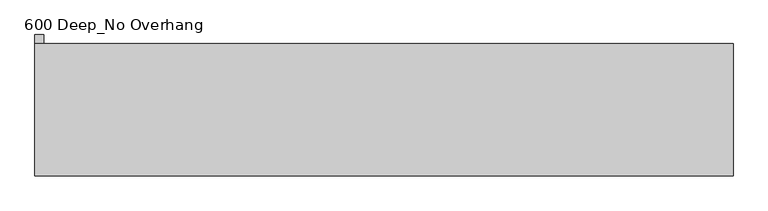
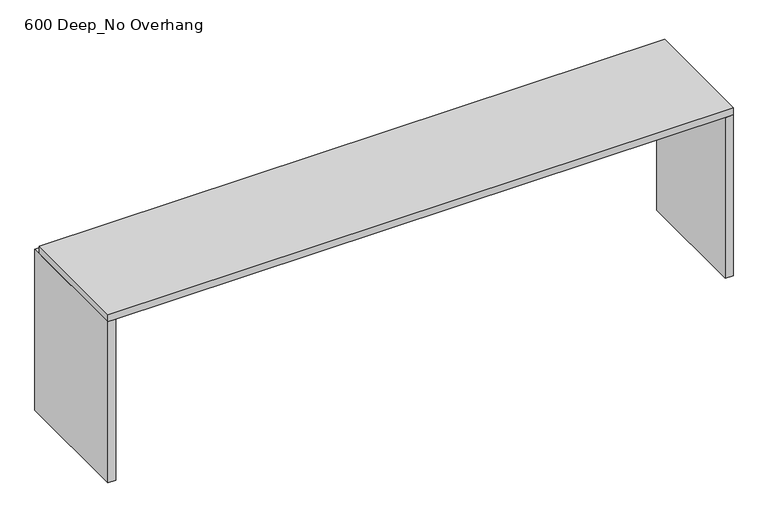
"""IFC4 building model written with IfcOpenShell, lengths in millimetres: furniture geometry, Benchtop_Optional Hole_I Shaped_CAS : 600 Deep_No Overhang."""

from ifc_helpers import new_model, si_unit, frame, origin, origin_with_axes, place, context, project, spatial, polyline, outline, extrude, source, transform, mapped, element, save


def furniture_600_deep_no_overhang_1bd0c172(model_context):
    return source(origin(), model_context, "Body", "SweptSolid", [
        extrude(outline(polyline([(1965.5714229, -600.0), (1965.5714229, 0.0), (2005.5714229, 0.0), (2005.5714229, -600.0), (1965.5714229, -600.0)])), origin_with_axes(), (0.0, 0.0, 1.0), 860.0),
        extrude(outline(polyline([(-1115.2996736, 40.0), (-1115.2996736, -600.0), (-1155.2996736, -600.0), (-1155.2996736, 40.0), (-1115.2996736, 40.0)])), origin_with_axes(), (0.0, 0.0, 1.0), 860.0),
        extrude(outline(polyline([(2005.5714229, 0.0), (2005.5714229, -600.0), (-1155.2996736, -600.0), (-1155.2996736, 0.0), (2005.5714229, 0.0)])), frame((0.0, 0.0, 860.0), z_axis=(0.0, 0.0, 1.0), x_axis=(1.0, 0.0, 0.0)), (0.0, 0.0, 1.0), 40.0),
    ])


if __name__ == "__main__":
    model = new_model("IFC4")
    model_context = context("Model", 3, world=origin())
    ifc_project = project(units=[si_unit("LENGTHUNIT", "METRE", prefix="MILLI")], contexts=[model_context])
    site = spatial("IfcSite", under=ifc_project)
    building = spatial("IfcBuilding", under=site)
    placement = place(None, origin())
    furniture_600_deep_no_overhang_shape = furniture_600_deep_no_overhang_1bd0c172(model_context)
    element("IfcFurniture", 1, ObjectType="Benchtop_Optional Hole_I Shaped_CAS : 600 Deep_No Overhang", at=placement, inside=building, context=model_context, shape_type="MappedRepresentation", body=[
        mapped(furniture_600_deep_no_overhang_shape, transform((0.0, 0.0, 0.0), x_axis=(1.0, 0.0, 0.0), y_axis=(0.0, 1.0, 0.0), z_axis=(0.0, 0.0, 1.0))),
    ])
    save(model, "model.ifc")
